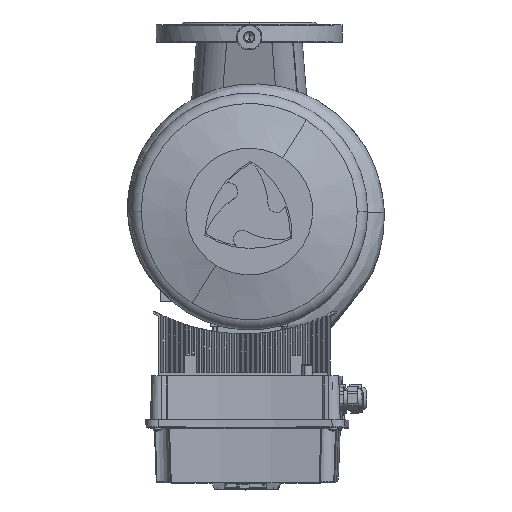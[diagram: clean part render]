
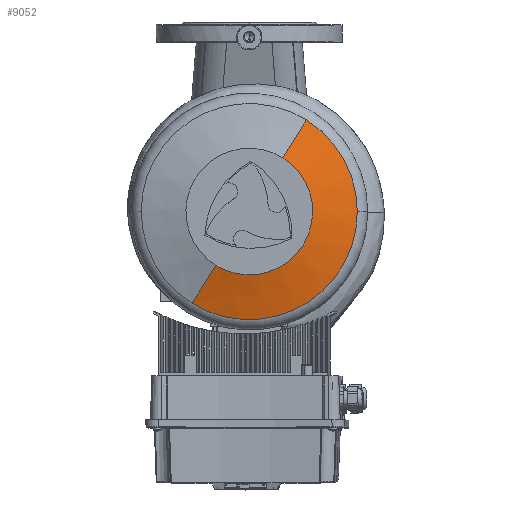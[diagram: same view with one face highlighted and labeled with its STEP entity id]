
A CAD part, top view. The second image highlights one B-rep face of the part: STEP entity #9052.
In plain terms, the highlighted conical face has half-angle 75 degrees and reference radius 101.423 mm.
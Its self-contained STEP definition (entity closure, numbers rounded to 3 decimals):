
#9052=ADVANCED_FACE('',(#20518),#20519,.T.);
#9068=EDGE_CURVE('',#20546,#20528,#20547,.T.);
#9242=EDGE_CURVE('',#20532,#20546,#20780,.T.);
#9244=EDGE_CURVE('',#20536,#20535,#20782,.T.);
#20518=FACE_OUTER_BOUND('',#39943,.T.);
#20519=CONICAL_SURFACE('',#39944,101.423,1.309);
#20528=VERTEX_POINT('',#39954);
#20532=VERTEX_POINT('',#39959);
#20535=VERTEX_POINT('',#39963);
#20536=VERTEX_POINT('',#39964);
#20546=VERTEX_POINT('',#39977);
#20547=CIRCLE('',#39978,127.845);
#20780=CIRCLE('',#40336,127.845);
#20782=CIRCLE('',#40339,75.);
#39943=EDGE_LOOP('',(#67059,#67060,#67061,#67062,#67063));
#39944=AXIS2_PLACEMENT_3D('',#67064,#67065,#67066);
#39954=CARTESIAN_POINT('',(177.914,240.062,304.171));
#39959=CARTESIAN_POINT('',(42.564,23.132,304.171));
#39963=CARTESIAN_POINT('',(149.94,195.227,318.33));
#39964=CARTESIAN_POINT('',(70.538,67.967,318.33));
#39977=CARTESIAN_POINT('',(238.084,131.597,304.171));
#39978=AXIS2_PLACEMENT_3D('',#67097,#67098,#67099);
#40336=AXIS2_PLACEMENT_3D('',#67282,#67283,#67284);
#40339=AXIS2_PLACEMENT_3D('',#67285,#67286,#67287);
#67059=ORIENTED_EDGE('',*,*,#105560,.T.);
#67060=ORIENTED_EDGE('',*,*,#9244,.F.);
#67061=ORIENTED_EDGE('',*,*,#105561,.T.);
#67062=ORIENTED_EDGE('',*,*,#9242,.T.);
#67063=ORIENTED_EDGE('',*,*,#9068,.T.);
#67064=CARTESIAN_POINT('',(110.239,131.597,311.251));
#67065=DIRECTION('',(-0.0,0.0,-1.0));
#67066=DIRECTION('',(0.529,0.848,0.0));
#67097=CARTESIAN_POINT('',(110.239,131.597,304.171));
#67098=DIRECTION('',(0.0,-0.0,1.0));
#67099=DIRECTION('',(0.529,0.848,0.0));
#67282=CARTESIAN_POINT('',(110.239,131.597,304.171));
#67283=DIRECTION('',(0.0,-0.0,1.0));
#67284=DIRECTION('',(0.529,0.848,0.0));
#67285=CARTESIAN_POINT('',(110.239,131.597,318.33));
#67286=DIRECTION('',(0.0,-0.0,1.0));
#67287=DIRECTION('',(0.529,0.848,0.0));
#105560=EDGE_CURVE('',#20528,#20535,#119173,.T.);
#105561=EDGE_CURVE('',#20536,#20532,#119174,.T.);
#119173=LINE('',#134776,#134777);
#119174=LINE('',#134778,#134779);
#134776=CARTESIAN_POINT('',(163.927,217.644,311.251));
#134777=VECTOR('',#165023,1.0);
#134778=CARTESIAN_POINT('',(56.551,45.549,311.251));
#134779=VECTOR('',#165024,1.0);
#165023=DIRECTION('',(-0.511,-0.819,0.259));
#165024=DIRECTION('',(-0.511,-0.819,-0.259));
